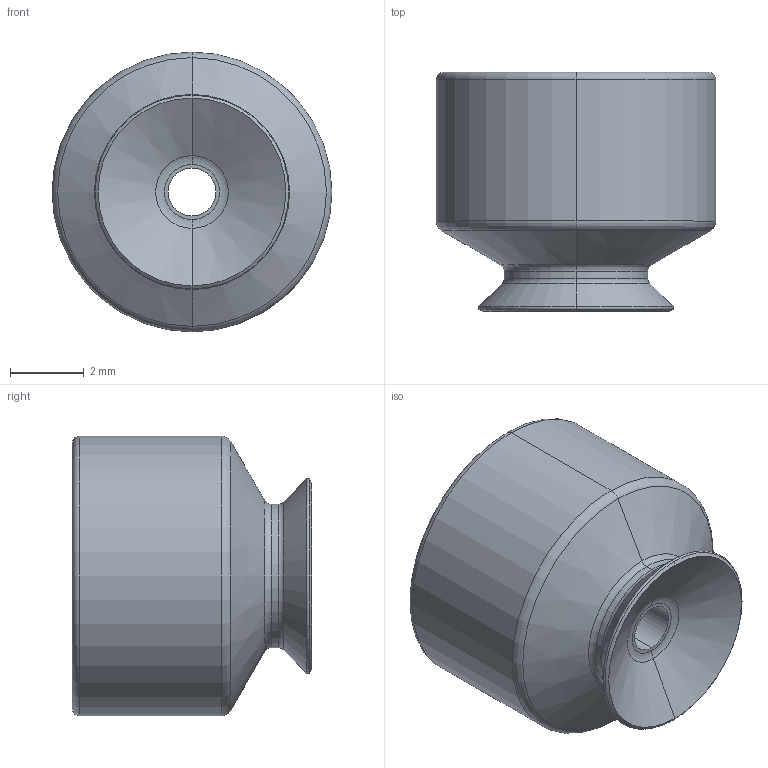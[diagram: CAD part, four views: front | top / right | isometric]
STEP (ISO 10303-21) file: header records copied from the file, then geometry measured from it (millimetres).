
FILE_DESCRIPTION (( 'STEP AP203' ), '1' );
FILE_NAME ('PFG_05A--A.STEP', '2017-09-20T15:36:06', ( '' ), ( '' ), 'SwSTEP 2.0', 'SolidWorks 2016', '' );
FILE_SCHEMA (( 'CONFIG_CONTROL_DESIGN' ));
Length unit declared in the file: millimetre
Products named in the file (1): PFG_05A--A
Bounding box: 7.6 x 6.5 x 7.6 mm (x, y, z)
Volume: 152.1 mm3; surface area: 314.9 mm2
Topology: 1 solids, 1 shells, 44 faces, 88 edges, 48 vertices
Faces by surface type: torus 22, cylinder 10, cone 8, plane 4
Entity records: 1227 total; most frequent: DIRECTION 248, CARTESIAN_POINT 181, ORIENTED_EDGE 176, AXIS2_PLACEMENT_3D 115, EDGE_CURVE 88, CIRCLE 70, EDGE_LOOP 48, VERTEX_POINT 48
